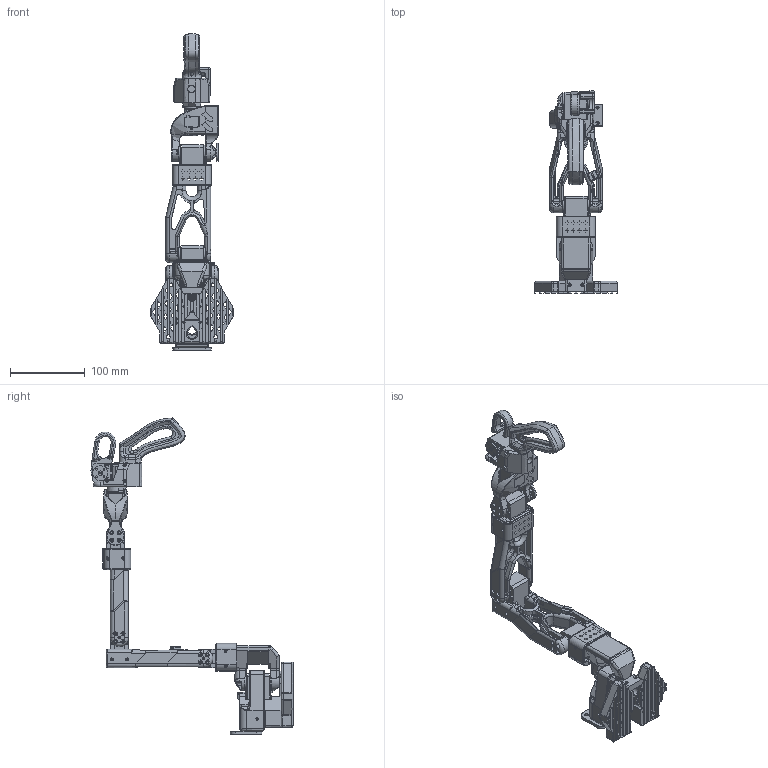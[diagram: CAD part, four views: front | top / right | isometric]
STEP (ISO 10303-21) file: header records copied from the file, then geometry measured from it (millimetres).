
FILE_DESCRIPTION(/* description */ (''),/* implementation_level */ '2;1');
FILE_NAME(/* name */ '',/* time_stamp */ '2025-09-22T21:04:35+08:00',/* author */ (''),/* organization */ (''),/* preprocessor_version */ 'ST-DEVELOPER v20.1',/* originating_system */ 'Autodesk Translation Framework v14.17.0.0',/* authorisation */ '');
FILE_SCHEMA (('AUTOMOTIVE_DESIGN { 1 0 10303 214 3 1 1 }'));
Products named in the file (14): Base_08q; Motor1_holder; Base_attachment; Rotation_Pitch_08i; SO_ARM100_08k (1); SO_ARM100_08k (2); SO_ARM100_08k; Wrist_Roll_Pitch_08i; STS3215_03a; STS3215_03a_1; Wrist_Roll_05m_Leader_02ba v1_A; Wrist_Roll_05m_Leader_02ba v1_B; Trigger_04e; WaveShare_Mounting_Plate_SO101
Assembly tree (18 placements, depth 2):
  Base_08q
    STS3215_03a_1  x5
    Motor1_holder
    Base_attachment
    Rotation_Pitch_08i
    SO_ARM100_08k  x2
    SO_ARM100_08k (1)
    SO_ARM100_08k (2)
    Wrist_Roll_Pitch_08i
    STS3215_03a
    Wrist_Roll_05m_Leader_02ba v1_A
    Wrist_Roll_05m_Leader_02ba v1_B
    Trigger_04e
    WaveShare_Mounting_Plate_SO101
Bounding box: 110.92 x 269.44 x 421.47 mm (x, y, z)
Volume: 698760.9 mm3; surface area: 275995.2 mm2
Topology: 20 solids, 20 shells, 4210 faces, 11266 edges, 7078 vertices
Faces by surface type: plane 2579, cylinder 1067, bspline 314, torus 120, cone 109, sphere 21
Full cylindrical faces by diameter (mm): 1.2 x1, 1.5 x50, 2 x38, 2.1 x1, 2.2 x1, 2.5 x50, 3.2 x13, 3.5 x12, 4 x3, 4.8 x6, 5.2 x5, 5.4 x8, 6 x11, 7.904 x1, 9 x6, 10 x1, 16.6 x1, 20 x11, 24 x1
Entity records: 150000 total; most frequent: CARTESIAN_POINT 65723, ORIENTED_EDGE 18122, DIRECTION 16657, EDGE_CURVE 9061, LINE 5941, VECTOR 5941, VERTEX_POINT 5702, AXIS2_PLACEMENT_3D 5358
